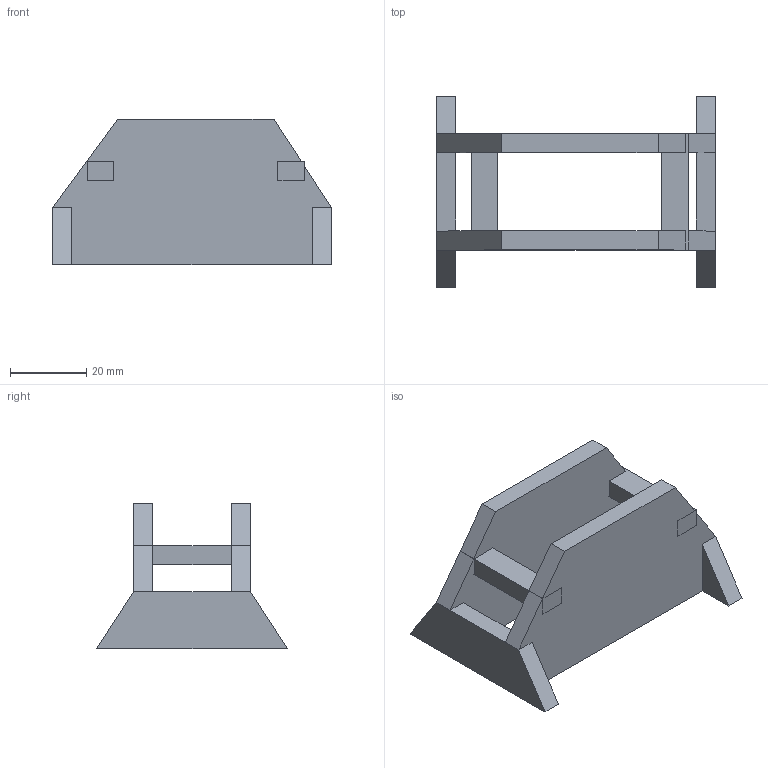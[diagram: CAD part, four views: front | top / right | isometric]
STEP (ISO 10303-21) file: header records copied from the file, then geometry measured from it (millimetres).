
FILE_DESCRIPTION(('STEP AP214'),'1');
FILE_NAME('tmp0.STEP','2026-07-09T19:04:44',(' '),(' '),'Spatial InterOp 3D',' ',' ');
FILE_SCHEMA(('AUTOMOTIVE_DESIGN { 1 0 10303 214 1 1 1 1 }'));
Length unit declared in the file: millimetre
Products named in the file (1): 1
Bounding box: 73 x 50 x 38.13 mm (x, y, z)
Volume: 30113.6 mm3; surface area: 16406.7 mm2
Topology: 6 solids, 6 shells, 62 faces, 150 edges, 100 vertices
Faces by surface type: plane 62
Entity records: 1867 total; most frequent: CARTESIAN_POINT 318, ORIENTED_EDGE 300, DIRECTION 286, EDGE_CURVE 150, LINE 150, VECTOR 150, VERTEX_POINT 100, AXIS2_PLACEMENT_3D 68
